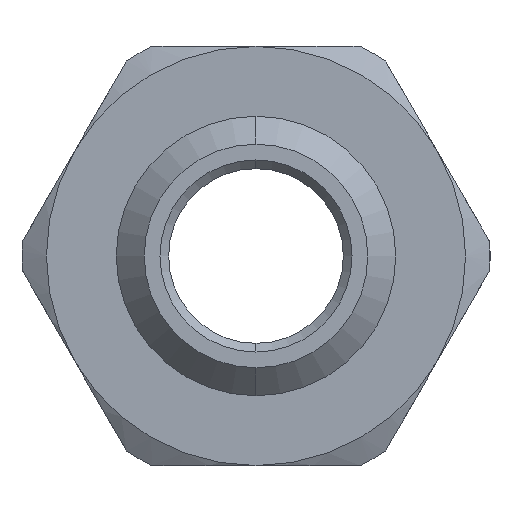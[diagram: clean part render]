
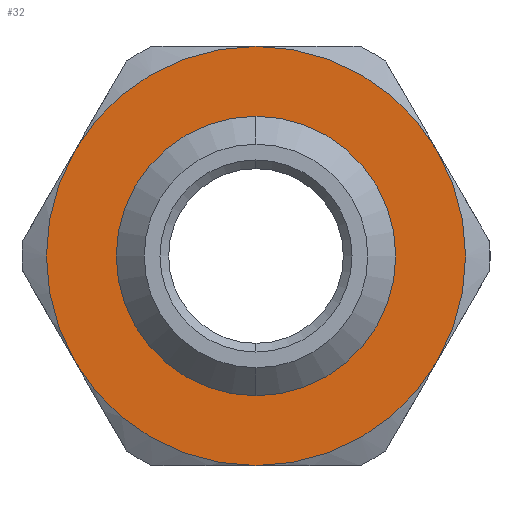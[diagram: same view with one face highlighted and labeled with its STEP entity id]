
A CAD part, left-side view. The second image highlights one B-rep face of the part: STEP entity #32.
In plain terms, the highlighted planar face has unit normal (-1, 0, 0).
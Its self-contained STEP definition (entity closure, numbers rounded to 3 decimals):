
#32 = ADVANCED_FACE ( 'NONE', ( #857, #872 ), #1242, .F. ) ;
#61 = ORIENTED_EDGE ( 'NONE', *, *, #1638, .T. ) ;
#62 = ORIENTED_EDGE ( 'NONE', *, *, #1640, .F. ) ;
#63 = ORIENTED_EDGE ( 'NONE', *, *, #1627, .T. ) ;
#64 = ORIENTED_EDGE ( 'NONE', *, *, #1639, .F. ) ;
#65 = ORIENTED_EDGE ( 'NONE', *, *, #1641, .F. ) ;
#71 = ORIENTED_EDGE ( 'NONE', *, *, #1644, .F. ) ;
#73 = ORIENTED_EDGE ( 'NONE', *, *, #1643, .F. ) ;
#74 = ORIENTED_EDGE ( 'NONE', *, *, #1642, .F. ) ;
#92 = AXIS2_PLACEMENT_3D ( 'NONE', #1250, #1238, #1237 ) ;
#136 = AXIS2_PLACEMENT_3D ( 'NONE', #521, #520, #519 ) ;
#138 = AXIS2_PLACEMENT_3D ( 'NONE', #528, #527, #524 ) ;
#139 = AXIS2_PLACEMENT_3D ( 'NONE', #532, #531, #530 ) ;
#145 = AXIS2_PLACEMENT_3D ( 'NONE', #506, #505, #504 ) ;
#146 = AXIS2_PLACEMENT_3D ( 'NONE', #574, #573, #572 ) ;
#147 = AXIS2_PLACEMENT_3D ( 'NONE', #518, #516, #512 ) ;
#151 = AXIS2_PLACEMENT_3D ( 'NONE', #510, #508, #507 ) ;
#154 = AXIS2_PLACEMENT_3D ( 'NONE', #502, #501, #500 ) ;
#500 = DIRECTION ( 'NONE',  ( 0., 0., -1. ) ) ;
#501 = DIRECTION ( 'NONE',  ( 1., 0., 0. ) ) ;
#502 = CARTESIAN_POINT ( 'NONE',  ( -23., 0., 0. ) ) ;
#504 = DIRECTION ( 'NONE',  ( 0., 0., -1. ) ) ;
#505 = DIRECTION ( 'NONE',  ( 1., 0., 0. ) ) ;
#506 = CARTESIAN_POINT ( 'NONE',  ( -23., 0., 0. ) ) ;
#507 = DIRECTION ( 'NONE',  ( 0., 0., -1. ) ) ;
#508 = DIRECTION ( 'NONE',  ( 1., 0., 0. ) ) ;
#510 = CARTESIAN_POINT ( 'NONE',  ( -23., 0., 0. ) ) ;
#512 = DIRECTION ( 'NONE',  ( 0., 0., -1. ) ) ;
#516 = DIRECTION ( 'NONE',  ( 1., 0., 0. ) ) ;
#518 = CARTESIAN_POINT ( 'NONE',  ( -23., 0., 0. ) ) ;
#519 = DIRECTION ( 'NONE',  ( 0., 0., -1. ) ) ;
#520 = DIRECTION ( 'NONE',  ( 1., 0., 0. ) ) ;
#521 = CARTESIAN_POINT ( 'NONE',  ( -23., 0., 0. ) ) ;
#524 = DIRECTION ( 'NONE',  ( 0., 0., -1. ) ) ;
#527 = DIRECTION ( 'NONE',  ( 1., 0., 0. ) ) ;
#528 = CARTESIAN_POINT ( 'NONE',  ( -23., 0., 0. ) ) ;
#530 = DIRECTION ( 'NONE',  ( 0., 0., -1. ) ) ;
#531 = DIRECTION ( 'NONE',  ( 1., 0., 0. ) ) ;
#532 = CARTESIAN_POINT ( 'NONE',  ( -23., 0., 0. ) ) ;
#572 = DIRECTION ( 'NONE',  ( 0., 0., -1. ) ) ;
#573 = DIRECTION ( 'NONE',  ( 1., 0., 0. ) ) ;
#574 = CARTESIAN_POINT ( 'NONE',  ( -23., 0., 0. ) ) ;
#670 = VERTEX_POINT ( 'NONE', #1168 ) ;
#672 = VERTEX_POINT ( 'NONE', #1164 ) ;
#679 = VERTEX_POINT ( 'NONE', #1159 ) ;
#720 = VERTEX_POINT ( 'NONE', #1103 ) ;
#724 = VERTEX_POINT ( 'NONE', #1099 ) ;
#738 = VERTEX_POINT ( 'NONE', #1082 ) ;
#739 = VERTEX_POINT ( 'NONE', #1081 ) ;
#742 = VERTEX_POINT ( 'NONE', #1078 ) ;
#805 = EDGE_LOOP ( 'NONE', ( #64, #62, #65, #74, #73, #71 ) ) ;
#806 = EDGE_LOOP ( 'NONE', ( #61, #63 ) ) ;
#857 = FACE_BOUND ( 'NONE', #806, .T. ) ;
#872 = FACE_OUTER_BOUND ( 'NONE', #805, .T. ) ;
#1078 = CARTESIAN_POINT ( 'NONE',  ( -23., 0., 12. ) ) ;
#1081 = CARTESIAN_POINT ( 'NONE',  ( -23., 10.392, -6. ) ) ;
#1082 = CARTESIAN_POINT ( 'NONE',  ( -23., 0., 7.55 ) ) ;
#1099 = CARTESIAN_POINT ( 'NONE',  ( -23., 0., -12. ) ) ;
#1103 = CARTESIAN_POINT ( 'NONE',  ( -23., -10.392, 6. ) ) ;
#1159 = CARTESIAN_POINT ( 'NONE',  ( -23., 10.392, 6. ) ) ;
#1164 = CARTESIAN_POINT ( 'NONE',  ( -23., -10.392, -6. ) ) ;
#1168 = CARTESIAN_POINT ( 'NONE',  ( -23., 0., -7.55 ) ) ;
#1237 = DIRECTION ( 'NONE',  ( 0., 0., -1. ) ) ;
#1238 = DIRECTION ( 'NONE',  ( 1., 0., 0. ) ) ;
#1242 = PLANE ( 'NONE',  #92 ) ;
#1250 = CARTESIAN_POINT ( 'NONE',  ( -23., 18.856, 0. ) ) ;
#1459 = CIRCLE ( 'NONE', #146, 7.55 ) ;
#1473 = CIRCLE ( 'NONE', #136, 12. ) ;
#1476 = CIRCLE ( 'NONE', #139, 7.55 ) ;
#1477 = CIRCLE ( 'NONE', #138, 12. ) ;
#1478 = CIRCLE ( 'NONE', #147, 12. ) ;
#1479 = CIRCLE ( 'NONE', #151, 12. ) ;
#1480 = CIRCLE ( 'NONE', #145, 12. ) ;
#1481 = CIRCLE ( 'NONE', #154, 12. ) ;
#1627 = EDGE_CURVE ( 'NONE', #738, #670, #1459, .T. ) ;
#1638 = EDGE_CURVE ( 'NONE', #670, #738, #1476, .T. ) ;
#1639 = EDGE_CURVE ( 'NONE', #724, #739, #1477, .T. ) ;
#1640 = EDGE_CURVE ( 'NONE', #672, #724, #1473, .T. ) ;
#1641 = EDGE_CURVE ( 'NONE', #720, #672, #1478, .T. ) ;
#1642 = EDGE_CURVE ( 'NONE', #742, #720, #1479, .T. ) ;
#1643 = EDGE_CURVE ( 'NONE', #679, #742, #1480, .T. ) ;
#1644 = EDGE_CURVE ( 'NONE', #739, #679, #1481, .T. ) ;
